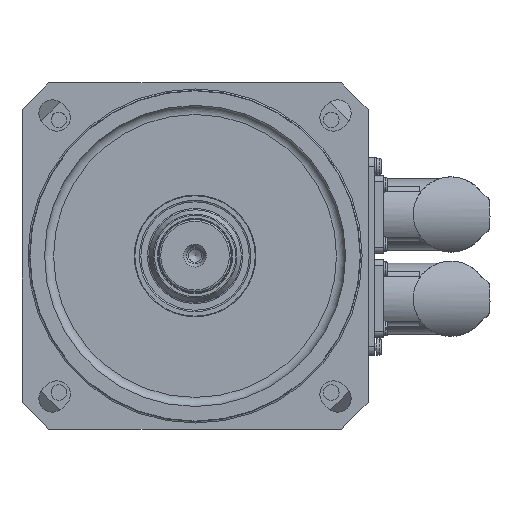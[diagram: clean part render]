
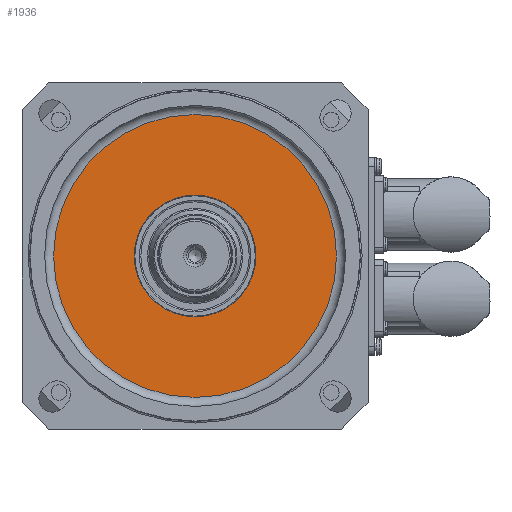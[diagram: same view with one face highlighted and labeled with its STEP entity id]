
A CAD part, top view. The second image highlights one B-rep face of the part: STEP entity #1936.
In plain terms, the highlighted planar face has unit normal (0, 0, 1).
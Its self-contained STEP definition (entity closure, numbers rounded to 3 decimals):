
#1936=ADVANCED_FACE('',(#2826,#4471),#2314,.F.);
#2314=PLANE('',#14268);
#2826=FACE_OUTER_BOUND('',#5419,.T.);
#4471=FACE_BOUND('',#5420,.T.);
#5419=EDGE_LOOP('',(#8355));
#5420=EDGE_LOOP('',(#8356));
#8355=ORIENTED_EDGE('',*,*,#11959,.T.);
#8356=ORIENTED_EDGE('',*,*,#11960,.T.);
#10325=VERTEX_POINT('',#23074);
#10326=VERTEX_POINT('',#23076);
#11959=EDGE_CURVE('',#10325,#10325,#12956,.T.);
#11960=EDGE_CURVE('',#10326,#10326,#12957,.T.);
#12956=CIRCLE('',#14266,47.);
#12957=CIRCLE('',#14267,20.212);
#14266=AXIS2_PLACEMENT_3D('',#23073,#17352,#17353);
#14267=AXIS2_PLACEMENT_3D('',#23075,#17354,#17355);
#14268=AXIS2_PLACEMENT_3D('',#23077,#17356,#17357);
#17352=DIRECTION('',(0.,0.,1.));
#17353=DIRECTION('',(-1.,0.,0.));
#17354=DIRECTION('',(0.,0.,-1.));
#17355=DIRECTION('',(-1.,0.,0.));
#17356=DIRECTION('',(0.,0.,-1.));
#17357=DIRECTION('',(-1.,0.,0.));
#23073=CARTESIAN_POINT('',(0.,0.,31.));
#23074=CARTESIAN_POINT('',(-47.,0.,31.));
#23075=CARTESIAN_POINT('',(0.,0.,31.));
#23076=CARTESIAN_POINT('',(-20.212,0.,31.));
#23077=CARTESIAN_POINT('',(0.,0.,31.));
